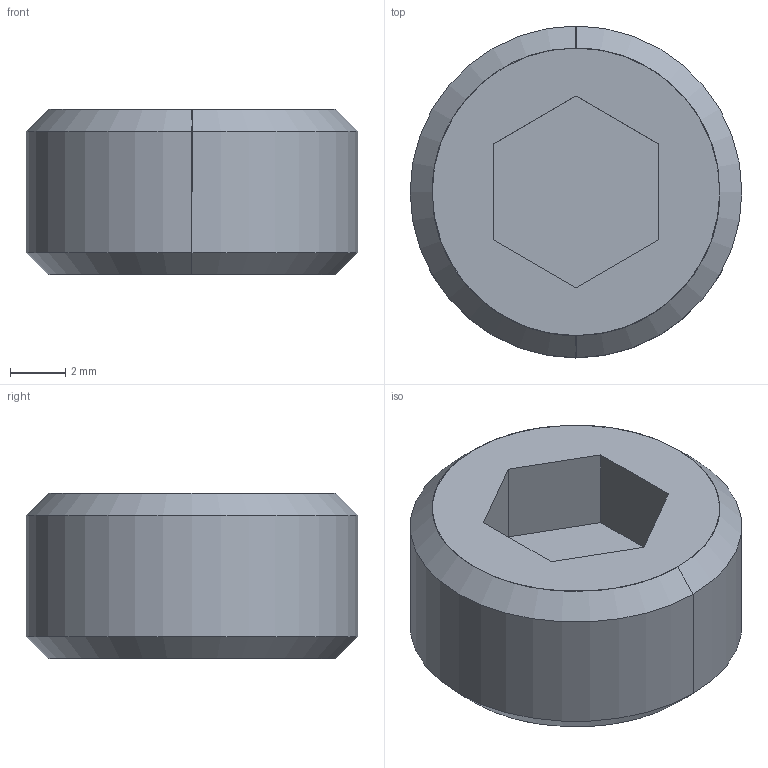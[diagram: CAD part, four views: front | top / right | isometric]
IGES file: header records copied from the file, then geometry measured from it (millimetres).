
Global section: file name: E:\UnigraphicsGraphicData\MISUMI_PRESS-PARTS\IGES\3d_msws12-6_00520_r00.igs; native system: NX V5.0; preprocessor: UGS NX IGES V5.0; author: MISUMI; date: 20110105.161524; units: millimetre
Bounding box: 12 x 12 x 6 mm (x, y, z)
Surface area: 478.3 mm2 (no closed solid volume)
Topology: 0 solids, 0 shells, 15 faces, 76 edges, 76 vertices
Faces by surface type: bspline 15
